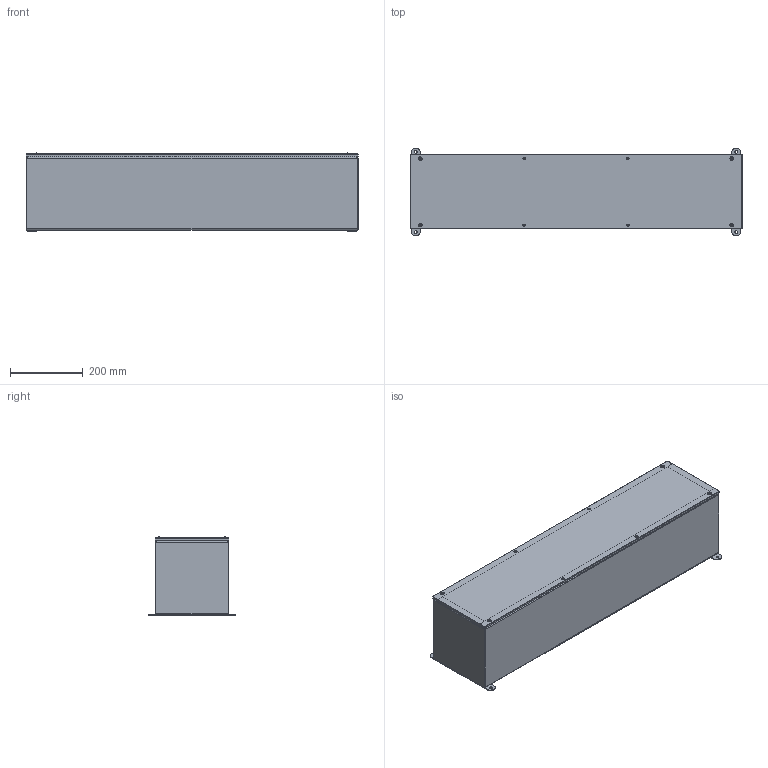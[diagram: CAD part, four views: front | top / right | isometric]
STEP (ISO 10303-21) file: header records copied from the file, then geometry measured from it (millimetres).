
FILE_DESCRIPTION (( 'STEP AP203' ), '1' );
FILE_NAME ('f8836scss.STEP', '2016-02-22T21:24:30', ( '' ), ( '' ), 'SwSTEP 2.0', 'SolidWorks 2014', '' );
FILE_SCHEMA (( 'CONFIG_CONTROL_DESIGN' ));
Length unit declared in the file: inch
Products named in the file (12): 89127759; 14241008; 89128170; 87789569_DEFAULT; f8836scss; 58110002; 89127725; 89127665; 89127740; 89127806; 89127749; 89127769
Assembly tree (28 placements, depth 3):
  f8836scss
    89127759
      89127740
      89127749  x2
      89127769  x2
    14241008  x4
    87789569_DEFAULT  x4
    58110002  x8
    89128170
      89127725
      89127665  x2
      89127806  x2
Bounding box: 914.4 x 241.3 x 214.87 mm (x, y, z)
Volume: 1706419.1 mm3; surface area: 1840342.1 mm2
Topology: 26 solids, 26 shells, 592 faces, 1412 edges, 892 vertices
Faces by surface type: plane 312, cylinder 152, cone 44, sphere 40, torus 32, bspline 12
Entity records: 11270 total; most frequent: CARTESIAN_POINT 1968, DIRECTION 1598, ORIENTED_EDGE 1524, EDGE_CURVE 762, AXIS2_PLACEMENT_3D 547, LINE 504, VECTOR 504, VERTEX_POINT 493
